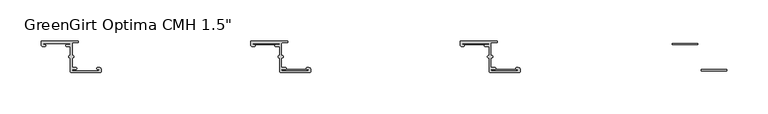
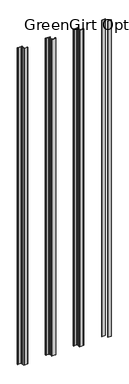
"""IFC4 building model written with IfcOpenShell, lengths in millimetres: fastener geometry."""

from ifc_helpers import new_model, si_unit, frame, origin, origin_with_axes, place, context, project, spatial, polyline, circle_curve, outline, extrude, source, transform, mapped, element, save
from ifc_brep_helpers import plane_surface, cylinder_surface, revolved_surface, advanced_brep


def fastener_c6fd529a(model_context):
    return source(origin(), model_context, "Body", "SolidModel", [
        extrude(outline(polyline([(1863.09, -2.794), (1863.09, -4.5212), (1832.102, -4.5212), (1832.102, -2.794), (1863.09, -2.794)])), origin_with_axes(), (0.0, 0.0, 1.0), 3048.0),
        extrude(outline(polyline([(1898.269, -34.4677766), (1898.269, -36.1949766), (1867.281, -36.1949766), (1867.281, -34.4677766), (1898.269, -34.4677766)])), origin_with_axes(), (0.0, 0.0, 1.0), 3048.0),
        advanced_brep(
        [(1578.102, -2.794, 3048.0), (1609.471, -2.794, 3048.0), (1609.471, -4.5212, 3048.0), (1605.28, -4.5212, 3048.0), (1605.28, -6.5532, 3048.0), (1609.471, -6.5532, 3048.0), (1610.233, -7.3152, 3048.0), (1610.233, -17.7601563, 3048.0), (1609.3845567, -17.7601563, 3048.0), (1609.3845567, -20.4288947, 3048.0), (1610.233, -20.4288947, 3048.0), (1610.233, -37.3379766, 3048.0), (1610.995, -38.0999766, 3048.0), (1646.8513242, -38.1, 3048.0), (1647.571, -37.3379766, 3048.0), (1647.571, -34.4677766, 3048.0), (1645.539, -32.4357766, 3048.0), (1643.253, -32.4357766, 3048.0), (1643.253, -34.4677766, 3048.0), (1644.269, -34.4677766, 3048.0), (1644.269, -36.1949766, 3048.0), (1612.9, -36.1949766, 3048.0), (1612.9, -34.4677766, 3048.0), (1617.091, -34.4677766, 3048.0), (1617.091, -32.4357766, 3048.0), (1612.9, -32.4357766, 3048.0), (1612.138, -31.6737766, 3048.0), (1612.138, -20.4279799, 3048.0), (1612.9869007, -20.4279799, 3048.0), (1612.9869007, -17.7601563, 3048.0), (1612.138, -17.7601563, 3048.0), (1612.138, -2.667, 3048.0), (1612.9, -1.905, 3048.0), (1618.996, -1.905, 3048.0), (1618.996, 0.0, 3048.0), (1575.562, 0.0, 3048.0), (1574.8, -0.762, 3048.0), (1574.8, -4.5212, 3048.0), (1576.832, -6.5532, 3048.0), (1579.118, -6.5532, 3048.0), (1579.118, -4.5212, 3048.0), (1578.102, -4.5212, 3048.0), (1578.102, -2.794, 0.0), (1578.102, -4.5212, 0.0), (1579.118, -4.5212, 0.0), (1579.118, -6.5532, 0.0), (1576.832, -6.5532, 0.0), (1574.8, -4.5212, 0.0), (1574.8, -0.762, 0.0), (1575.562, 0.0, 0.0), (1618.996, 0.0, 0.0), (1618.996, -1.905, 0.0), (1612.9, -1.905, 0.0), (1612.138, -2.667, 0.0), (1612.138, -17.7601563, 0.0), (1612.9869007, -17.7601563, 0.0), (1612.9869007, -20.4279799, 0.0), (1612.138, -20.4279799, 0.0), (1612.138, -31.6737766, 0.0), (1612.9, -32.4357766, 0.0), (1617.091, -32.4357766, 0.0), (1617.091, -34.4677766, 0.0), (1612.9, -34.4677766, 0.0), (1612.9, -36.1949766, 0.0), (1644.269, -36.1949766, 0.0), (1644.269, -34.4677766, 0.0), (1643.253, -34.4677766, 0.0), (1643.253, -32.4357766, 0.0), (1645.539, -32.4357766, 0.0), (1647.571, -34.4677766, 0.0), (1647.571, -37.3379766, 0.0), (1646.809, -38.0999766, 0.0), (1610.9676774, -38.1, 0.0), (1610.233, -37.3379766, 0.0), (1610.233, -20.4288947, 0.0), (1609.3845567, -20.4288947, 0.0), (1609.3845567, -17.7601563, 0.0), (1610.233, -17.7601563, 0.0), (1610.233, -7.3152, 0.0), (1609.471, -6.5532, 0.0), (1605.28, -6.5532, 0.0), (1605.28, -4.5212, 0.0), (1609.471, -4.5212, 0.0), (1609.471, -2.794, 0.0)],
        [
            (0, 1),
            (1, 2, circle_curve(frame((1609.471, -3.6576, 3048.0), z_axis=(0.0, 0.0, -1.0), x_axis=(1.0, 0.0, 0.0)), 0.8636)),
            (2, 3),
            (3, 4, circle_curve(frame((1605.28, -5.5372, 3048.0), z_axis=(0.0, 0.0, 1.0), x_axis=(1.0, 0.0, 0.0)), 1.016)),
            (4, 5),
            (5, 6, circle_curve(frame((1609.471, -7.3152, 3048.0), z_axis=(0.0, 0.0, -1.0), x_axis=(1.0, 0.0, 0.0)), 0.762)),
            (6, 7),
            (7, 8),
            (8, 9, circle_curve(frame((1609.3845567, -19.0945255, 3048.0), z_axis=(0.0, 0.0, 1.0), x_axis=(1.0, 0.0, 0.0)), 1.3343692)),
            (9, 10),
            (10, 11),
            (11, 12, circle_curve(frame((1610.995, -37.3379766, 3048.0), z_axis=(0.0, 0.0, 1.0), x_axis=(1.0, 0.0, 0.0)), 0.762)),
            (12, 13),
            (13, 14, circle_curve(frame((1646.809, -37.3379766, 3048.0), z_axis=(0.0, 0.0, 1.0), x_axis=(1.0, 0.0, 0.0)), 0.762)),
            (14, 15),
            (15, 16, circle_curve(frame((1645.539, -34.4677766, 3048.0), z_axis=(0.0, 0.0, 1.0), x_axis=(1.0, 0.0, 0.0)), 2.032)),
            (16, 17),
            (17, 18, circle_curve(frame((1643.253, -33.4517766, 3048.0), z_axis=(0.0, 0.0, 1.0), x_axis=(1.0, 0.0, 0.0)), 1.016)),
            (18, 19),
            (19, 20, circle_curve(frame((1644.269, -35.3313766, 3048.0), z_axis=(0.0, 0.0, -1.0), x_axis=(1.0, 0.0, 0.0)), 0.8636)),
            (20, 21),
            (21, 22, circle_curve(frame((1612.9, -35.3313766, 3048.0), z_axis=(0.0, 0.0, -1.0), x_axis=(1.0, 0.0, 0.0)), 0.8636)),
            (22, 23),
            (23, 24, circle_curve(frame((1617.091, -33.4517766, 3048.0), z_axis=(0.0, 0.0, 1.0), x_axis=(1.0, 0.0, 0.0)), 1.016)),
            (24, 25),
            (25, 26, circle_curve(frame((1612.9, -31.6737766, 3048.0), z_axis=(0.0, 0.0, -1.0), x_axis=(1.0, 0.0, 0.0)), 0.762)),
            (26, 27),
            (27, 28),
            (28, 29, circle_curve(frame((1612.9869007, -19.0940681, 3048.0), z_axis=(0.0, 0.0, 1.0), x_axis=(1.0, 0.0, 0.0)), 1.3339118)),
            (29, 30),
            (30, 31),
            (31, 32, circle_curve(frame((1612.9, -2.667, 3048.0), z_axis=(0.0, 0.0, -1.0), x_axis=(1.0, 0.0, 0.0)), 0.762)),
            (32, 33),
            (33, 34, circle_curve(frame((1618.996, -0.9525, 3048.0), z_axis=(0.0, 0.0, 1.0), x_axis=(1.0, 0.0, 0.0)), 0.9525)),
            (34, 35),
            (35, 36, circle_curve(frame((1575.562, -0.762, 3048.0), z_axis=(0.0, 0.0, 1.0), x_axis=(1.0, 0.0, 0.0)), 0.762)),
            (36, 37),
            (37, 38, circle_curve(frame((1576.832, -4.5212, 3048.0), z_axis=(0.0, 0.0, 1.0), x_axis=(1.0, 0.0, 0.0)), 2.032)),
            (38, 39),
            (39, 40, circle_curve(frame((1579.118, -5.5372, 3048.0), z_axis=(0.0, 0.0, 1.0), x_axis=(1.0, 0.0, 0.0)), 1.016)),
            (40, 41),
            (41, 0, circle_curve(frame((1578.102, -3.6576, 3048.0), z_axis=(0.0, 0.0, -1.0), x_axis=(1.0, 0.0, 0.0)), 0.8636)),
            (42, 43, circle_curve(frame((1578.102, -3.6576, 0.0), z_axis=(0.0, 0.0, 1.0), x_axis=(1.0, 0.0, 0.0)), 0.8636)),
            (43, 44),
            (44, 45, circle_curve(frame((1579.118, -5.5372, 0.0), z_axis=(0.0, 0.0, -1.0), x_axis=(1.0, 0.0, 0.0)), 1.016)),
            (45, 46),
            (46, 47, circle_curve(frame((1576.832, -4.5212, 0.0), z_axis=(0.0, 0.0, -1.0), x_axis=(1.0, 0.0, 0.0)), 2.032)),
            (47, 48),
            (48, 49, circle_curve(frame((1575.562, -0.762, 0.0), z_axis=(0.0, 0.0, -1.0), x_axis=(1.0, 0.0, 0.0)), 0.762)),
            (49, 50),
            (50, 51, circle_curve(frame((1618.996, -0.9525, 0.0), z_axis=(0.0, 0.0, -1.0), x_axis=(1.0, 0.0, 0.0)), 0.9525)),
            (51, 52),
            (52, 53, circle_curve(frame((1612.9, -2.667, 0.0), z_axis=(0.0, 0.0, 1.0), x_axis=(1.0, 0.0, 0.0)), 0.762)),
            (53, 54),
            (54, 55),
            (55, 56, circle_curve(frame((1612.9869007, -19.0940681, 0.0), z_axis=(0.0, 0.0, -1.0), x_axis=(1.0, 0.0, 0.0)), 1.3339118)),
            (56, 57),
            (57, 58),
            (58, 59, circle_curve(frame((1612.9, -31.6737766, 0.0), z_axis=(0.0, 0.0, 1.0), x_axis=(1.0, 0.0, 0.0)), 0.762)),
            (59, 60),
            (60, 61, circle_curve(frame((1617.091, -33.4517766, 0.0), z_axis=(0.0, 0.0, -1.0), x_axis=(1.0, 0.0, 0.0)), 1.016)),
            (61, 62),
            (62, 63, circle_curve(frame((1612.9, -35.3313766, 0.0), z_axis=(0.0, 0.0, 1.0), x_axis=(1.0, 0.0, 0.0)), 0.8636)),
            (63, 64),
            (64, 65, circle_curve(frame((1644.269, -35.3313766, 0.0), z_axis=(0.0, 0.0, 1.0), x_axis=(1.0, 0.0, 0.0)), 0.8636)),
            (65, 66),
            (66, 67, circle_curve(frame((1643.253, -33.4517766, 0.0), z_axis=(0.0, 0.0, -1.0), x_axis=(1.0, 0.0, 0.0)), 1.016)),
            (67, 68),
            (68, 69, circle_curve(frame((1645.539, -34.4677766, 0.0), z_axis=(0.0, 0.0, -1.0), x_axis=(1.0, 0.0, 0.0)), 2.032)),
            (69, 70),
            (70, 71, circle_curve(frame((1646.809, -37.3379766, 0.0), z_axis=(0.0, 0.0, -1.0), x_axis=(1.0, 0.0, 0.0)), 0.762)),
            (71, 72),
            (72, 73, circle_curve(frame((1610.995, -37.3379766, 0.0), z_axis=(0.0, 0.0, -1.0), x_axis=(1.0, 0.0, 0.0)), 0.762)),
            (73, 74),
            (74, 75),
            (75, 76, circle_curve(frame((1609.3845567, -19.0945255, 0.0), z_axis=(0.0, 0.0, -1.0), x_axis=(1.0, 0.0, 0.0)), 1.3343692)),
            (76, 77),
            (77, 78),
            (78, 79, circle_curve(frame((1609.471, -7.3152, 0.0), z_axis=(0.0, 0.0, 1.0), x_axis=(1.0, 0.0, 0.0)), 0.762)),
            (79, 80),
            (80, 81, circle_curve(frame((1605.28, -5.5372, 0.0), z_axis=(0.0, 0.0, -1.0), x_axis=(1.0, 0.0, 0.0)), 1.016)),
            (81, 82),
            (82, 83, circle_curve(frame((1609.471, -3.6576, 0.0), z_axis=(0.0, 0.0, 1.0), x_axis=(1.0, 0.0, 0.0)), 0.8636)),
            (83, 42),
            (0, 42),
            (83, 1),
            (82, 2),
            (81, 3),
            (80, 4),
            (79, 5),
            (78, 6),
            (77, 7),
            (76, 8),
            (75, 9),
            (74, 10),
            (73, 11),
            (72, 12),
            (71, 13),
            (70, 14),
            (69, 15),
            (68, 16),
            (67, 17),
            (66, 18),
            (65, 19),
            (64, 20),
            (63, 21),
            (62, 22),
            (61, 23),
            (60, 24),
            (59, 25),
            (58, 26),
            (57, 27),
            (56, 28),
            (55, 29),
            (54, 30),
            (53, 31),
            (52, 32),
            (51, 33),
            (50, 34),
            (49, 35),
            (48, 36),
            (47, 37),
            (46, 38),
            (45, 39),
            (44, 40),
            (43, 41),
        ],
        [
            plane_surface(frame((1609.471, -2.794, 3048.0), z_axis=(0.0, 0.0, 1.0), x_axis=(1.0, 0.0, 0.0))),
            plane_surface(frame((1609.471, -2.794, 0.0), z_axis=(0.0, 0.0, -1.0), x_axis=(-1.0, 0.0, 0.0))),
            plane_surface(frame((1578.102, -2.794, 3048.0), z_axis=(0.0, -1.0, 0.0), x_axis=(0.0, 0.0, -1.0))),
            revolved_surface(polyline([(1610.3346, -3.6576, 0.0), (1610.3346, -3.6576, 3048.0)]), (1609.471, -3.6576, 0.0), (0.0, 0.0, -1.0)),
            plane_surface(frame((1609.471, -4.5212, 3048.0), z_axis=(0.0, 1.0, 0.0), x_axis=(0.0, 0.0, -1.0))),
            cylinder_surface(frame((1605.28, -5.5372, 0.0), z_axis=(0.0, 0.0, 1.0), x_axis=(1.0, 0.0, 0.0)), 1.016),
            plane_surface(frame((1605.28, -6.5532, 3048.0), z_axis=(0.0, -1.0, 0.0), x_axis=(0.0, 0.0, -1.0))),
            revolved_surface(polyline([(1610.233, -7.3152, 0.0), (1610.233, -7.3152, 3048.0)]), (1609.471, -7.3152, 0.0), (0.0, 0.0, -1.0)),
            plane_surface(frame((1610.233, -7.3152, 3048.0), z_axis=(-1.0, 0.0, 0.0), x_axis=(0.0, 0.0, -1.0))),
            plane_surface(frame((1610.233, -17.7601563, 3048.0), z_axis=(0.0, 1.0, 0.0), x_axis=(0.0, 0.0, -1.0))),
            cylinder_surface(frame((1609.3845567, -19.0945255, 0.0), z_axis=(0.0, 0.0, 1.0), x_axis=(1.0, 0.0, 0.0)), 1.3343692),
            plane_surface(frame((1609.3845567, -20.4288947, 3048.0), z_axis=(0.0, -1.0, 0.0), x_axis=(0.0, 0.0, -1.0))),
            plane_surface(frame((1610.233, -20.4288947, 3048.0), z_axis=(-1.0, 0.0, 0.0), x_axis=(0.0, 0.0, -1.0))),
            cylinder_surface(frame((1610.995, -37.3379766, 0.0), z_axis=(0.0, 0.0, 1.0), x_axis=(1.0, 0.0, 0.0)), 0.762),
            plane_surface(frame((1610.9676774, -38.1, 3048.0), z_axis=(0.0, -1.0, 0.0), x_axis=(0.0, 0.0, -1.0))),
            cylinder_surface(frame((1646.809, -37.3379766, 0.0), z_axis=(0.0, 0.0, 1.0), x_axis=(1.0, 0.0, 0.0)), 0.762),
            plane_surface(frame((1647.571, -37.3379766, 3048.0), z_axis=(1.0, 1.3794275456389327e-12, 0.0), x_axis=(0.0, 0.0, -1.0))),
            cylinder_surface(frame((1645.539, -34.4677766, 0.0), z_axis=(0.0, 0.0, 1.0), x_axis=(1.0, 0.0, 0.0)), 2.032),
            plane_surface(frame((1645.539, -32.4357766, 3048.0), z_axis=(0.0, 1.0, 0.0), x_axis=(0.0, 0.0, -1.0))),
            cylinder_surface(frame((1643.253, -33.4517766, 0.0), z_axis=(0.0, 0.0, 1.0), x_axis=(1.0, 0.0, 0.0)), 1.016),
            plane_surface(frame((1643.253, -34.4677766, 3048.0), z_axis=(0.0, -1.0, 0.0), x_axis=(0.0, 0.0, -1.0))),
            revolved_surface(polyline([(1645.1326, -35.3313766, 0.0), (1645.1326, -35.3313766, 3048.0)]), (1644.269, -35.3313766, 0.0), (0.0, 0.0, -1.0)),
            plane_surface(frame((1644.269, -36.1949766, 3048.0), z_axis=(0.0, 1.0, 0.0), x_axis=(0.0, 0.0, -1.0))),
            revolved_surface(polyline([(1613.7636, -35.3313766, 0.0), (1613.7636, -35.3313766, 3048.0)]), (1612.9, -35.3313766, 0.0), (0.0, 0.0, -1.0)),
            plane_surface(frame((1612.9, -34.4677766, 3048.0), z_axis=(0.0, -1.0, 0.0), x_axis=(0.0, 0.0, -1.0))),
            cylinder_surface(frame((1617.091, -33.4517766, 0.0), z_axis=(0.0, 0.0, 1.0), x_axis=(1.0, 0.0, 0.0)), 1.016),
            plane_surface(frame((1617.091, -32.4357766, 3048.0), z_axis=(0.0, 1.0, 0.0), x_axis=(0.0, 0.0, -1.0))),
            revolved_surface(polyline([(1613.662, -31.6737766, 0.0), (1613.662, -31.6737766, 3048.0)]), (1612.9, -31.6737766, 0.0), (0.0, 0.0, -1.0)),
            plane_surface(frame((1612.138, -31.6737766, 3048.0), z_axis=(1.0, 0.0, 0.0), x_axis=(0.0, 0.0, -1.0))),
            plane_surface(frame((1612.138, -20.4279799, 3048.0), z_axis=(0.0, -1.0, 0.0), x_axis=(0.0, 0.0, -1.0))),
            cylinder_surface(frame((1612.9869007, -19.0940681, 0.0), z_axis=(0.0, 0.0, 1.0), x_axis=(1.0, 0.0, 0.0)), 1.3339118),
            plane_surface(frame((1612.9869007, -17.7601563, 3048.0), z_axis=(0.0, 1.0, 0.0), x_axis=(0.0, 0.0, -1.0))),
            plane_surface(frame((1612.138, -17.7601563, 3048.0), z_axis=(1.0, 0.0, 0.0), x_axis=(0.0, 0.0, -1.0))),
            revolved_surface(polyline([(1613.662, -2.667, 0.0), (1613.662, -2.667, 3048.0)]), (1612.9, -2.667, 0.0), (0.0, 0.0, -1.0)),
            plane_surface(frame((1612.9, -1.905, 3048.0), z_axis=(0.0, -1.0, 0.0), x_axis=(0.0, 0.0, -1.0))),
            cylinder_surface(frame((1618.996, -0.9525, 0.0), z_axis=(0.0, 0.0, 1.0), x_axis=(1.0, 0.0, 0.0)), 0.9525),
            plane_surface(frame((1618.996, 0.0, 3048.0), z_axis=(0.0, 1.0, 0.0), x_axis=(0.0, 0.0, -1.0))),
            cylinder_surface(frame((1575.562, -0.762, 0.0), z_axis=(0.0, 0.0, 1.0), x_axis=(1.0, 0.0, 0.0)), 0.762),
            plane_surface(frame((1574.8, -0.762, 3048.0), z_axis=(-1.0, 2.681638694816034e-11, 0.0), x_axis=(0.0, 0.0, -1.0))),
            cylinder_surface(frame((1576.832, -4.5212, 0.0), z_axis=(0.0, 0.0, 1.0), x_axis=(1.0, 0.0, 0.0)), 2.032),
            plane_surface(frame((1576.832, -6.5532, 3048.0), z_axis=(0.0, -1.0, 0.0), x_axis=(0.0, 0.0, -1.0))),
            cylinder_surface(frame((1579.118, -5.5372, 0.0), z_axis=(0.0, 0.0, 1.0), x_axis=(1.0, 0.0, 0.0)), 1.016),
            plane_surface(frame((1579.118, -4.5212, 3048.0), z_axis=(0.0, 1.0, 0.0), x_axis=(0.0, 0.0, -1.0))),
            revolved_surface(polyline([(1578.9656, -3.6576, 0.0), (1578.9656, -3.6576, 3048.0)]), (1578.102, -3.6576, 0.0), (0.0, 0.0, -1.0)),
        ],
        [
            (0, [[1, 2, 3, 4, 5, 6, 7, 8, 9, 10, 11, 12, 13, 14, 15, 16, 17, 18, 19, 20, 21, 22, 23, 24, 25, 26, 27, 28, 29, 30, 31, 32, 33, 34, 35, 36, 37, 38, 39, 40, 41, 42]]),
            (1, [[43, 44, 45, 46, 47, 48, 49, 50, 51, 52, 53, 54, 55, 56, 57, 58, 59, 60, 61, 62, 63, 64, 65, 66, 67, 68, 69, 70, 71, 72, 73, 74, 75, 76, 77, 78, 79, 80, 81, 82, 83, 84]]),
            (2, [[-1, 85, -84, 86]]),
            (3, [[-2, -86, -83, 87]]),
            (4, [[-3, -87, -82, 88]]),
            (5, [[-4, -88, -81, 89]]),
            (6, [[-5, -89, -80, 90]]),
            (7, [[-6, -90, -79, 91]]),
            (8, [[-7, -91, -78, 92]]),
            (9, [[-8, -92, -77, 93]]),
            (10, [[-9, -93, -76, 94]]),
            (11, [[-10, -94, -75, 95]]),
            (12, [[-11, -95, -74, 96]]),
            (13, [[-12, -96, -73, 97]]),
            (14, [[-13, -97, -72, 98]]),
            (15, [[-14, -98, -71, 99]]),
            (16, [[-15, -99, -70, 100]]),
            (17, [[-16, -100, -69, 101]]),
            (18, [[-17, -101, -68, 102]]),
            (19, [[-18, -102, -67, 103]]),
            (20, [[-19, -103, -66, 104]]),
            (21, [[-20, -104, -65, 105]]),
            (22, [[-21, -105, -64, 106]]),
            (23, [[-22, -106, -63, 107]]),
            (24, [[-23, -107, -62, 108]]),
            (25, [[-24, -108, -61, 109]]),
            (26, [[-25, -109, -60, 110]]),
            (27, [[-26, -110, -59, 111]]),
            (28, [[-27, -111, -58, 112]]),
            (29, [[-28, -112, -57, 113]]),
            (30, [[-29, -113, -56, 114]]),
            (31, [[-30, -114, -55, 115]]),
            (32, [[-31, -115, -54, 116]]),
            (33, [[-32, -116, -53, 117]]),
            (34, [[-33, -117, -52, 118]]),
            (35, [[-34, -118, -51, 119]]),
            (36, [[-35, -119, -50, 120]]),
            (37, [[-36, -120, -49, 121]]),
            (38, [[-37, -121, -48, 122]]),
            (39, [[-38, -122, -47, 123]]),
            (40, [[-39, -123, -46, 124]]),
            (41, [[-40, -124, -45, 125]]),
            (42, [[-41, -125, -44, 126]]),
            (43, [[-42, -126, -43, -85]]),
        ],
    ),
        extrude(outline(polyline([(1609.09, -2.794), (1609.09, -4.5212), (1578.102, -4.5212), (1578.102, -2.794), (1609.09, -2.794)])), origin_with_axes(), (0.0, 0.0, 1.0), 3048.0),
        extrude(outline(polyline([(1644.269, -34.4677766), (1644.269, -36.1949766), (1613.281, -36.1949766), (1613.281, -34.4677766), (1644.269, -34.4677766)])), origin_with_axes(), (0.0, 0.0, 1.0), 3048.0),
        advanced_brep(
        [(1324.102, -2.794, 3048.0), (1355.471, -2.794, 3048.0), (1355.471, -4.5212, 3048.0), (1351.28, -4.5212, 3048.0), (1351.28, -6.5532, 3048.0), (1355.471, -6.5532, 3048.0), (1356.233, -7.3152, 3048.0), (1356.233, -17.7601563, 3048.0), (1355.3845567, -17.7601563, 3048.0), (1355.3845567, -20.4288947, 3048.0), (1356.233, -20.4288947, 3048.0), (1356.233, -37.3379766, 3048.0), (1356.995, -38.0999766, 3048.0), (1392.8513242, -38.1, 3048.0), (1393.571, -37.3379766, 3048.0), (1393.571, -34.4677766, 3048.0), (1391.539, -32.4357766, 3048.0), (1389.253, -32.4357766, 3048.0), (1389.253, -34.4677766, 3048.0), (1390.269, -34.4677766, 3048.0), (1390.269, -36.1949766, 3048.0), (1358.9, -36.1949766, 3048.0), (1358.9, -34.4677766, 3048.0), (1363.091, -34.4677766, 3048.0), (1363.091, -32.4357766, 3048.0), (1358.9, -32.4357766, 3048.0), (1358.138, -31.6737766, 3048.0), (1358.138, -20.4279799, 3048.0), (1358.9869007, -20.4279799, 3048.0), (1358.9869007, -17.7601563, 3048.0), (1358.138, -17.7601563, 3048.0), (1358.138, -2.667, 3048.0), (1358.9, -1.905, 3048.0), (1364.996, -1.905, 3048.0), (1364.996, 0.0, 3048.0), (1321.562, 0.0, 3048.0), (1320.8, -0.762, 3048.0), (1320.8, -4.5212, 3048.0), (1322.832, -6.5532, 3048.0), (1325.118, -6.5532, 3048.0), (1325.118, -4.5212, 3048.0), (1324.102, -4.5212, 3048.0), (1324.102, -2.794, 0.0), (1324.102, -4.5212, 0.0), (1325.118, -4.5212, 0.0), (1325.118, -6.5532, 0.0), (1322.832, -6.5532, 0.0), (1320.8, -4.5212, 0.0), (1320.8, -0.762, 0.0), (1321.562, 0.0, 0.0), (1364.996, 0.0, 0.0), (1364.996, -1.905, 0.0), (1358.9, -1.905, 0.0), (1358.138, -2.667, 0.0), (1358.138, -17.7601563, 0.0), (1358.9869007, -17.7601563, 0.0), (1358.9869007, -20.4279799, 0.0), (1358.138, -20.4279799, 0.0), (1358.138, -31.6737766, 0.0), (1358.9, -32.4357766, 0.0), (1363.091, -32.4357766, 0.0), (1363.091, -34.4677766, 0.0), (1358.9, -34.4677766, 0.0), (1358.9, -36.1949766, 0.0), (1390.269, -36.1949766, 0.0), (1390.269, -34.4677766, 0.0), (1389.253, -34.4677766, 0.0), (1389.253, -32.4357766, 0.0), (1391.539, -32.4357766, 0.0), (1393.571, -34.4677766, 0.0), (1393.571, -37.3379766, 0.0), (1392.809, -38.0999766, 0.0), (1356.9676774, -38.1, 0.0), (1356.233, -37.3379766, 0.0), (1356.233, -20.4288947, 0.0), (1355.3845567, -20.4288947, 0.0), (1355.3845567, -17.7601563, 0.0), (1356.233, -17.7601563, 0.0), (1356.233, -7.3152, 0.0), (1355.471, -6.5532, 0.0), (1351.28, -6.5532, 0.0), (1351.28, -4.5212, 0.0), (1355.471, -4.5212, 0.0), (1355.471, -2.794, 0.0)],
        [
            (0, 1),
            (1, 2, circle_curve(frame((1355.471, -3.6576, 3048.0), z_axis=(0.0, 0.0, -1.0), x_axis=(1.0, 0.0, 0.0)), 0.8636)),
            (2, 3),
            (3, 4, circle_curve(frame((1351.28, -5.5372, 3048.0), z_axis=(0.0, 0.0, 1.0), x_axis=(1.0, 0.0, 0.0)), 1.016)),
            (4, 5),
            (5, 6, circle_curve(frame((1355.471, -7.3152, 3048.0), z_axis=(0.0, 0.0, -1.0), x_axis=(1.0, 0.0, 0.0)), 0.762)),
            (6, 7),
            (7, 8),
            (8, 9, circle_curve(frame((1355.3845567, -19.0945255, 3048.0), z_axis=(0.0, 0.0, 1.0), x_axis=(1.0, 0.0, 0.0)), 1.3343692)),
            (9, 10),
            (10, 11),
            (11, 12, circle_curve(frame((1356.995, -37.3379766, 3048.0), z_axis=(0.0, 0.0, 1.0), x_axis=(1.0, 0.0, 0.0)), 0.762)),
            (12, 13),
            (13, 14, circle_curve(frame((1392.809, -37.3379766, 3048.0), z_axis=(0.0, 0.0, 1.0), x_axis=(1.0, 0.0, 0.0)), 0.762)),
            (14, 15),
            (15, 16, circle_curve(frame((1391.539, -34.4677766, 3048.0), z_axis=(0.0, 0.0, 1.0), x_axis=(1.0, 0.0, 0.0)), 2.032)),
            (16, 17),
            (17, 18, circle_curve(frame((1389.253, -33.4517766, 3048.0), z_axis=(0.0, 0.0, 1.0), x_axis=(1.0, 0.0, 0.0)), 1.016)),
            (18, 19),
            (19, 20, circle_curve(frame((1390.269, -35.3313766, 3048.0), z_axis=(0.0, 0.0, -1.0), x_axis=(1.0, 0.0, 0.0)), 0.8636)),
            (20, 21),
            (21, 22, circle_curve(frame((1358.9, -35.3313766, 3048.0), z_axis=(0.0, 0.0, -1.0), x_axis=(1.0, 0.0, 0.0)), 0.8636)),
            (22, 23),
            (23, 24, circle_curve(frame((1363.091, -33.4517766, 3048.0), z_axis=(0.0, 0.0, 1.0), x_axis=(1.0, 0.0, 0.0)), 1.016)),
            (24, 25),
            (25, 26, circle_curve(frame((1358.9, -31.6737766, 3048.0), z_axis=(0.0, 0.0, -1.0), x_axis=(1.0, 0.0, 0.0)), 0.762)),
            (26, 27),
            (27, 28),
            (28, 29, circle_curve(frame((1358.9869007, -19.0940681, 3048.0), z_axis=(0.0, 0.0, 1.0), x_axis=(1.0, 0.0, 0.0)), 1.3339118)),
            (29, 30),
            (30, 31),
            (31, 32, circle_curve(frame((1358.9, -2.667, 3048.0), z_axis=(0.0, 0.0, -1.0), x_axis=(1.0, 0.0, 0.0)), 0.762)),
            (32, 33),
            (33, 34, circle_curve(frame((1364.996, -0.9525, 3048.0), z_axis=(0.0, 0.0, 1.0), x_axis=(1.0, 0.0, 0.0)), 0.9525)),
            (34, 35),
            (35, 36, circle_curve(frame((1321.562, -0.762, 3048.0), z_axis=(0.0, 0.0, 1.0), x_axis=(1.0, 0.0, 0.0)), 0.762)),
            (36, 37),
            (37, 38, circle_curve(frame((1322.832, -4.5212, 3048.0), z_axis=(0.0, 0.0, 1.0), x_axis=(1.0, 0.0, 0.0)), 2.032)),
            (38, 39),
            (39, 40, circle_curve(frame((1325.118, -5.5372, 3048.0), z_axis=(0.0, 0.0, 1.0), x_axis=(1.0, 0.0, 0.0)), 1.016)),
            (40, 41),
            (41, 0, circle_curve(frame((1324.102, -3.6576, 3048.0), z_axis=(0.0, 0.0, -1.0), x_axis=(1.0, 0.0, 0.0)), 0.8636)),
            (42, 43, circle_curve(frame((1324.102, -3.6576, 0.0), z_axis=(0.0, 0.0, 1.0), x_axis=(1.0, 0.0, 0.0)), 0.8636)),
            (43, 44),
            (44, 45, circle_curve(frame((1325.118, -5.5372, 0.0), z_axis=(0.0, 0.0, -1.0), x_axis=(1.0, 0.0, 0.0)), 1.016)),
            (45, 46),
            (46, 47, circle_curve(frame((1322.832, -4.5212, 0.0), z_axis=(0.0, 0.0, -1.0), x_axis=(1.0, 0.0, 0.0)), 2.032)),
            (47, 48),
            (48, 49, circle_curve(frame((1321.562, -0.762, 0.0), z_axis=(0.0, 0.0, -1.0), x_axis=(1.0, 0.0, 0.0)), 0.762)),
            (49, 50),
            (50, 51, circle_curve(frame((1364.996, -0.9525, 0.0), z_axis=(0.0, 0.0, -1.0), x_axis=(1.0, 0.0, 0.0)), 0.9525)),
            (51, 52),
            (52, 53, circle_curve(frame((1358.9, -2.667, 0.0), z_axis=(0.0, 0.0, 1.0), x_axis=(1.0, 0.0, 0.0)), 0.762)),
            (53, 54),
            (54, 55),
            (55, 56, circle_curve(frame((1358.9869007, -19.0940681, 0.0), z_axis=(0.0, 0.0, -1.0), x_axis=(1.0, 0.0, 0.0)), 1.3339118)),
            (56, 57),
            (57, 58),
            (58, 59, circle_curve(frame((1358.9, -31.6737766, 0.0), z_axis=(0.0, 0.0, 1.0), x_axis=(1.0, 0.0, 0.0)), 0.762)),
            (59, 60),
            (60, 61, circle_curve(frame((1363.091, -33.4517766, 0.0), z_axis=(0.0, 0.0, -1.0), x_axis=(1.0, 0.0, 0.0)), 1.016)),
            (61, 62),
            (62, 63, circle_curve(frame((1358.9, -35.3313766, 0.0), z_axis=(0.0, 0.0, 1.0), x_axis=(1.0, 0.0, 0.0)), 0.8636)),
            (63, 64),
            (64, 65, circle_curve(frame((1390.269, -35.3313766, 0.0), z_axis=(0.0, 0.0, 1.0), x_axis=(1.0, 0.0, 0.0)), 0.8636)),
            (65, 66),
            (66, 67, circle_curve(frame((1389.253, -33.4517766, 0.0), z_axis=(0.0, 0.0, -1.0), x_axis=(1.0, 0.0, 0.0)), 1.016)),
            (67, 68),
            (68, 69, circle_curve(frame((1391.539, -34.4677766, 0.0), z_axis=(0.0, 0.0, -1.0), x_axis=(1.0, 0.0, 0.0)), 2.032)),
            (69, 70),
            (70, 71, circle_curve(frame((1392.809, -37.3379766, 0.0), z_axis=(0.0, 0.0, -1.0), x_axis=(1.0, 0.0, 0.0)), 0.762)),
            (71, 72),
            (72, 73, circle_curve(frame((1356.995, -37.3379766, 0.0), z_axis=(0.0, 0.0, -1.0), x_axis=(1.0, 0.0, 0.0)), 0.762)),
            (73, 74),
            (74, 75),
            (75, 76, circle_curve(frame((1355.3845567, -19.0945255, 0.0), z_axis=(0.0, 0.0, -1.0), x_axis=(1.0, 0.0, 0.0)), 1.3343692)),
            (76, 77),
            (77, 78),
            (78, 79, circle_curve(frame((1355.471, -7.3152, 0.0), z_axis=(0.0, 0.0, 1.0), x_axis=(1.0, 0.0, 0.0)), 0.762)),
            (79, 80),
            (80, 81, circle_curve(frame((1351.28, -5.5372, 0.0), z_axis=(0.0, 0.0, -1.0), x_axis=(1.0, 0.0, 0.0)), 1.016)),
            (81, 82),
            (82, 83, circle_curve(frame((1355.471, -3.6576, 0.0), z_axis=(0.0, 0.0, 1.0), x_axis=(1.0, 0.0, 0.0)), 0.8636)),
            (83, 42),
            (0, 42),
            (83, 1),
            (82, 2),
            (81, 3),
            (80, 4),
            (79, 5),
            (78, 6),
            (77, 7),
            (76, 8),
            (75, 9),
            (74, 10),
            (73, 11),
            (72, 12),
            (71, 13),
            (70, 14),
            (69, 15),
            (68, 16),
            (67, 17),
            (66, 18),
            (65, 19),
            (64, 20),
            (63, 21),
            (62, 22),
            (61, 23),
            (60, 24),
            (59, 25),
            (58, 26),
            (57, 27),
            (56, 28),
            (55, 29),
            (54, 30),
            (53, 31),
            (52, 32),
            (51, 33),
            (50, 34),
            (49, 35),
            (48, 36),
            (47, 37),
            (46, 38),
            (45, 39),
            (44, 40),
            (43, 41),
        ],
        [
            plane_surface(frame((1355.471, -2.794, 3048.0), z_axis=(0.0, 0.0, 1.0), x_axis=(1.0, 0.0, 0.0))),
            plane_surface(frame((1355.471, -2.794, 0.0), z_axis=(0.0, 0.0, -1.0), x_axis=(-1.0, 0.0, 0.0))),
            plane_surface(frame((1324.102, -2.794, 3048.0), z_axis=(0.0, -1.0, 0.0), x_axis=(0.0, 0.0, -1.0))),
            revolved_surface(polyline([(1356.3346, -3.6576, 0.0), (1356.3346, -3.6576, 3048.0)]), (1355.471, -3.6576, 0.0), (0.0, 0.0, -1.0)),
            plane_surface(frame((1355.471, -4.5212, 3048.0), z_axis=(0.0, 1.0, 0.0), x_axis=(0.0, 0.0, -1.0))),
            cylinder_surface(frame((1351.28, -5.5372, 0.0), z_axis=(0.0, 0.0, 1.0), x_axis=(1.0, 0.0, 0.0)), 1.016),
            plane_surface(frame((1351.28, -6.5532, 3048.0), z_axis=(0.0, -1.0, 0.0), x_axis=(0.0, 0.0, -1.0))),
            revolved_surface(polyline([(1356.233, -7.3152, 0.0), (1356.233, -7.3152, 3048.0)]), (1355.471, -7.3152, 0.0), (0.0, 0.0, -1.0)),
            plane_surface(frame((1356.233, -7.3152, 3048.0), z_axis=(-1.0, 0.0, 0.0), x_axis=(0.0, 0.0, -1.0))),
            plane_surface(frame((1356.233, -17.7601563, 3048.0), z_axis=(0.0, 1.0, 0.0), x_axis=(0.0, 0.0, -1.0))),
            cylinder_surface(frame((1355.3845567, -19.0945255, 0.0), z_axis=(0.0, 0.0, 1.0), x_axis=(1.0, 0.0, 0.0)), 1.3343692),
            plane_surface(frame((1355.3845567, -20.4288947, 3048.0), z_axis=(0.0, -1.0, 0.0), x_axis=(0.0, 0.0, -1.0))),
            plane_surface(frame((1356.233, -20.4288947, 3048.0), z_axis=(-1.0, 0.0, 0.0), x_axis=(0.0, 0.0, -1.0))),
            cylinder_surface(frame((1356.995, -37.3379766, 0.0), z_axis=(0.0, 0.0, 1.0), x_axis=(1.0, 0.0, 0.0)), 0.762),
            plane_surface(frame((1356.9676774, -38.1, 3048.0), z_axis=(0.0, -1.0, 0.0), x_axis=(0.0, 0.0, -1.0))),
            cylinder_surface(frame((1392.809, -37.3379766, 0.0), z_axis=(0.0, 0.0, 1.0), x_axis=(1.0, 0.0, 0.0)), 0.762),
            plane_surface(frame((1393.571, -37.3379766, 3048.0), z_axis=(1.0, 1.3794275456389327e-12, 0.0), x_axis=(0.0, 0.0, -1.0))),
            cylinder_surface(frame((1391.539, -34.4677766, 0.0), z_axis=(0.0, 0.0, 1.0), x_axis=(1.0, 0.0, 0.0)), 2.032),
            plane_surface(frame((1391.539, -32.4357766, 3048.0), z_axis=(0.0, 1.0, 0.0), x_axis=(0.0, 0.0, -1.0))),
            cylinder_surface(frame((1389.253, -33.4517766, 0.0), z_axis=(0.0, 0.0, 1.0), x_axis=(1.0, 0.0, 0.0)), 1.016),
            plane_surface(frame((1389.253, -34.4677766, 3048.0), z_axis=(0.0, -1.0, 0.0), x_axis=(0.0, 0.0, -1.0))),
            revolved_surface(polyline([(1391.1326, -35.3313766, 0.0), (1391.1326, -35.3313766, 3048.0)]), (1390.269, -35.3313766, 0.0), (0.0, 0.0, -1.0)),
            plane_surface(frame((1390.269, -36.1949766, 3048.0), z_axis=(0.0, 1.0, 0.0), x_axis=(0.0, 0.0, -1.0))),
            revolved_surface(polyline([(1359.7636, -35.3313766, 0.0), (1359.7636, -35.3313766, 3048.0)]), (1358.9, -35.3313766, 0.0), (0.0, 0.0, -1.0)),
            plane_surface(frame((1358.9, -34.4677766, 3048.0), z_axis=(0.0, -1.0, 0.0), x_axis=(0.0, 0.0, -1.0))),
            cylinder_surface(frame((1363.091, -33.4517766, 0.0), z_axis=(0.0, 0.0, 1.0), x_axis=(1.0, 0.0, 0.0)), 1.016),
            plane_surface(frame((1363.091, -32.4357766, 3048.0), z_axis=(0.0, 1.0, 0.0), x_axis=(0.0, 0.0, -1.0))),
            revolved_surface(polyline([(1359.662, -31.6737766, 0.0), (1359.662, -31.6737766, 3048.0)]), (1358.9, -31.6737766, 0.0), (0.0, 0.0, -1.0)),
            plane_surface(frame((1358.138, -31.6737766, 3048.0), z_axis=(1.0, 0.0, 0.0), x_axis=(0.0, 0.0, -1.0))),
            plane_surface(frame((1358.138, -20.4279799, 3048.0), z_axis=(0.0, -1.0, 0.0), x_axis=(0.0, 0.0, -1.0))),
            cylinder_surface(frame((1358.9869007, -19.0940681, 0.0), z_axis=(0.0, 0.0, 1.0), x_axis=(1.0, 0.0, 0.0)), 1.3339118),
            plane_surface(frame((1358.9869007, -17.7601563, 3048.0), z_axis=(0.0, 1.0, 0.0), x_axis=(0.0, 0.0, -1.0))),
            plane_surface(frame((1358.138, -17.7601563, 3048.0), z_axis=(1.0, 0.0, 0.0), x_axis=(0.0, 0.0, -1.0))),
            revolved_surface(polyline([(1359.662, -2.667, 0.0), (1359.662, -2.667, 3048.0)]), (1358.9, -2.667, 0.0), (0.0, 0.0, -1.0)),
            plane_surface(frame((1358.9, -1.905, 3048.0), z_axis=(0.0, -1.0, 0.0), x_axis=(0.0, 0.0, -1.0))),
            cylinder_surface(frame((1364.996, -0.9525, 0.0), z_axis=(0.0, 0.0, 1.0), x_axis=(1.0, 0.0, 0.0)), 0.9525),
            plane_surface(frame((1364.996, 0.0, 3048.0), z_axis=(0.0, 1.0, 0.0), x_axis=(0.0, 0.0, -1.0))),
            cylinder_surface(frame((1321.562, -0.762, 0.0), z_axis=(0.0, 0.0, 1.0), x_axis=(1.0, 0.0, 0.0)), 0.762),
            plane_surface(frame((1320.8, -0.762, 3048.0), z_axis=(-1.0, 2.681638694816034e-11, 0.0), x_axis=(0.0, 0.0, -1.0))),
            cylinder_surface(frame((1322.832, -4.5212, 0.0), z_axis=(0.0, 0.0, 1.0), x_axis=(1.0, 0.0, 0.0)), 2.032),
            plane_surface(frame((1322.832, -6.5532, 3048.0), z_axis=(0.0, -1.0, 0.0), x_axis=(0.0, 0.0, -1.0))),
            cylinder_surface(frame((1325.118, -5.5372, 0.0), z_axis=(0.0, 0.0, 1.0), x_axis=(1.0, 0.0, 0.0)), 1.016),
            plane_surface(frame((1325.118, -4.5212, 3048.0), z_axis=(0.0, 1.0, 0.0), x_axis=(0.0, 0.0, -1.0))),
            revolved_surface(polyline([(1324.9656, -3.6576, 0.0), (1324.9656, -3.6576, 3048.0)]), (1324.102, -3.6576, 0.0), (0.0, 0.0, -1.0)),
        ],
        [
            (0, [[1, 2, 3, 4, 5, 6, 7, 8, 9, 10, 11, 12, 13, 14, 15, 16, 17, 18, 19, 20, 21, 22, 23, 24, 25, 26, 27, 28, 29, 30, 31, 32, 33, 34, 35, 36, 37, 38, 39, 40, 41, 42]]),
            (1, [[43, 44, 45, 46, 47, 48, 49, 50, 51, 52, 53, 54, 55, 56, 57, 58, 59, 60, 61, 62, 63, 64, 65, 66, 67, 68, 69, 70, 71, 72, 73, 74, 75, 76, 77, 78, 79, 80, 81, 82, 83, 84]]),
            (2, [[-1, 85, -84, 86]]),
            (3, [[-2, -86, -83, 87]]),
            (4, [[-3, -87, -82, 88]]),
            (5, [[-4, -88, -81, 89]]),
            (6, [[-5, -89, -80, 90]]),
            (7, [[-6, -90, -79, 91]]),
            (8, [[-7, -91, -78, 92]]),
            (9, [[-8, -92, -77, 93]]),
            (10, [[-9, -93, -76, 94]]),
            (11, [[-10, -94, -75, 95]]),
            (12, [[-11, -95, -74, 96]]),
            (13, [[-12, -96, -73, 97]]),
            (14, [[-13, -97, -72, 98]]),
            (15, [[-14, -98, -71, 99]]),
            (16, [[-15, -99, -70, 100]]),
            (17, [[-16, -100, -69, 101]]),
            (18, [[-17, -101, -68, 102]]),
            (19, [[-18, -102, -67, 103]]),
            (20, [[-19, -103, -66, 104]]),
            (21, [[-20, -104, -65, 105]]),
            (22, [[-21, -105, -64, 106]]),
            (23, [[-22, -106, -63, 107]]),
            (24, [[-23, -107, -62, 108]]),
            (25, [[-24, -108, -61, 109]]),
            (26, [[-25, -109, -60, 110]]),
            (27, [[-26, -110, -59, 111]]),
            (28, [[-27, -111, -58, 112]]),
            (29, [[-28, -112, -57, 113]]),
            (30, [[-29, -113, -56, 114]]),
            (31, [[-30, -114, -55, 115]]),
            (32, [[-31, -115, -54, 116]]),
            (33, [[-32, -116, -53, 117]]),
            (34, [[-33, -117, -52, 118]]),
            (35, [[-34, -118, -51, 119]]),
            (36, [[-35, -119, -50, 120]]),
            (37, [[-36, -120, -49, 121]]),
            (38, [[-37, -121, -48, 122]]),
            (39, [[-38, -122, -47, 123]]),
            (40, [[-39, -123, -46, 124]]),
            (41, [[-40, -124, -45, 125]]),
            (42, [[-41, -125, -44, 126]]),
            (43, [[-42, -126, -43, -85]]),
        ],
    ),
        extrude(outline(polyline([(1355.09, -2.794), (1355.09, -4.5212), (1324.102, -4.5212), (1324.102, -2.794), (1355.09, -2.794)])), origin_with_axes(), (0.0, 0.0, 1.0), 3048.0),
        extrude(outline(polyline([(1390.269, -34.4677766), (1390.269, -36.1949766), (1359.281, -36.1949766), (1359.281, -34.4677766), (1390.269, -34.4677766)])), origin_with_axes(), (0.0, 0.0, 1.0), 3048.0),
        advanced_brep(
        [(1070.102, -2.794, 3048.0), (1101.471, -2.794, 3048.0), (1101.471, -4.5212, 3048.0), (1097.28, -4.5212, 3048.0), (1097.28, -6.5532, 3048.0), (1101.471, -6.5532, 3048.0), (1102.233, -7.3152, 3048.0), (1102.233, -17.7601563, 3048.0), (1101.3845567, -17.7601563, 3048.0), (1101.3845567, -20.4288947, 3048.0), (1102.233, -20.4288947, 3048.0), (1102.233, -37.3379766, 3048.0), (1102.995, -38.0999766, 3048.0), (1138.8513242, -38.1, 3048.0), (1139.571, -37.3379766, 3048.0), (1139.571, -34.4677766, 3048.0), (1137.539, -32.4357766, 3048.0), (1135.253, -32.4357766, 3048.0), (1135.253, -34.4677766, 3048.0), (1136.269, -34.4677766, 3048.0), (1136.269, -36.1949766, 3048.0), (1104.9, -36.1949766, 3048.0), (1104.9, -34.4677766, 3048.0), (1109.091, -34.4677766, 3048.0), (1109.091, -32.4357766, 3048.0), (1104.9, -32.4357766, 3048.0), (1104.138, -31.6737766, 3048.0), (1104.138, -20.4279799, 3048.0), (1104.9869007, -20.4279799, 3048.0), (1104.9869007, -17.7601563, 3048.0), (1104.138, -17.7601563, 3048.0), (1104.138, -2.667, 3048.0), (1104.9, -1.905, 3048.0), (1110.996, -1.905, 3048.0), (1110.996, 0.0, 3048.0), (1067.562, 0.0, 3048.0), (1066.8, -0.762, 3048.0), (1066.8, -4.5212, 3048.0), (1068.832, -6.5532, 3048.0), (1071.118, -6.5532, 3048.0), (1071.118, -4.5212, 3048.0), (1070.102, -4.5212, 3048.0), (1070.102, -2.794, 0.0), (1070.102, -4.5212, 0.0), (1071.118, -4.5212, 0.0), (1071.118, -6.5532, 0.0), (1068.832, -6.5532, 0.0), (1066.8, -4.5212, 0.0), (1066.8, -0.762, 0.0), (1067.562, 0.0, 0.0), (1110.996, 0.0, 0.0), (1110.996, -1.905, 0.0), (1104.9, -1.905, 0.0), (1104.138, -2.667, 0.0), (1104.138, -17.7601563, 0.0), (1104.9869007, -17.7601563, 0.0), (1104.9869007, -20.4279799, 0.0), (1104.138, -20.4279799, 0.0), (1104.138, -31.6737766, 0.0), (1104.9, -32.4357766, 0.0), (1109.091, -32.4357766, 0.0), (1109.091, -34.4677766, 0.0), (1104.9, -34.4677766, 0.0), (1104.9, -36.1949766, 0.0), (1136.269, -36.1949766, 0.0), (1136.269, -34.4677766, 0.0), (1135.253, -34.4677766, 0.0), (1135.253, -32.4357766, 0.0), (1137.539, -32.4357766, 0.0), (1139.571, -34.4677766, 0.0), (1139.571, -37.3379766, 0.0), (1138.809, -38.0999766, 0.0), (1102.9676774, -38.1, 0.0), (1102.233, -37.3379766, 0.0), (1102.233, -20.4288947, 0.0), (1101.3845567, -20.4288947, 0.0), (1101.3845567, -17.7601563, 0.0), (1102.233, -17.7601563, 0.0), (1102.233, -7.3152, 0.0), (1101.471, -6.5532, 0.0), (1097.28, -6.5532, 0.0), (1097.28, -4.5212, 0.0), (1101.471, -4.5212, 0.0), (1101.471, -2.794, 0.0)],
        [
            (0, 1),
            (1, 2, circle_curve(frame((1101.471, -3.6576, 3048.0), z_axis=(0.0, 0.0, -1.0), x_axis=(1.0, 0.0, 0.0)), 0.8636)),
            (2, 3),
            (3, 4, circle_curve(frame((1097.28, -5.5372, 3048.0), z_axis=(0.0, 0.0, 1.0), x_axis=(1.0, 0.0, 0.0)), 1.016)),
            (4, 5),
            (5, 6, circle_curve(frame((1101.471, -7.3152, 3048.0), z_axis=(0.0, 0.0, -1.0), x_axis=(1.0, 0.0, 0.0)), 0.762)),
            (6, 7),
            (7, 8),
            (8, 9, circle_curve(frame((1101.3845567, -19.0945255, 3048.0), z_axis=(0.0, 0.0, 1.0), x_axis=(1.0, 0.0, 0.0)), 1.3343692)),
            (9, 10),
            (10, 11),
            (11, 12, circle_curve(frame((1102.995, -37.3379766, 3048.0), z_axis=(0.0, 0.0, 1.0), x_axis=(1.0, 0.0, 0.0)), 0.762)),
            (12, 13),
            (13, 14, circle_curve(frame((1138.809, -37.3379766, 3048.0), z_axis=(0.0, 0.0, 1.0), x_axis=(1.0, 0.0, 0.0)), 0.762)),
            (14, 15),
            (15, 16, circle_curve(frame((1137.539, -34.4677766, 3048.0), z_axis=(0.0, 0.0, 1.0), x_axis=(1.0, 0.0, 0.0)), 2.032)),
            (16, 17),
            (17, 18, circle_curve(frame((1135.253, -33.4517766, 3048.0), z_axis=(0.0, 0.0, 1.0), x_axis=(1.0, 0.0, 0.0)), 1.016)),
            (18, 19),
            (19, 20, circle_curve(frame((1136.269, -35.3313766, 3048.0), z_axis=(0.0, 0.0, -1.0), x_axis=(1.0, 0.0, 0.0)), 0.8636)),
            (20, 21),
            (21, 22, circle_curve(frame((1104.9, -35.3313766, 3048.0), z_axis=(0.0, 0.0, -1.0), x_axis=(1.0, 0.0, 0.0)), 0.8636)),
            (22, 23),
            (23, 24, circle_curve(frame((1109.091, -33.4517766, 3048.0), z_axis=(0.0, 0.0, 1.0), x_axis=(1.0, 0.0, 0.0)), 1.016)),
            (24, 25),
            (25, 26, circle_curve(frame((1104.9, -31.6737766, 3048.0), z_axis=(0.0, 0.0, -1.0), x_axis=(1.0, 0.0, 0.0)), 0.762)),
            (26, 27),
            (27, 28),
            (28, 29, circle_curve(frame((1104.9869007, -19.0940681, 3048.0), z_axis=(0.0, 0.0, 1.0), x_axis=(1.0, 0.0, 0.0)), 1.3339118)),
            (29, 30),
            (30, 31),
            (31, 32, circle_curve(frame((1104.9, -2.667, 3048.0), z_axis=(0.0, 0.0, -1.0), x_axis=(1.0, 0.0, 0.0)), 0.762)),
            (32, 33),
            (33, 34, circle_curve(frame((1110.996, -0.9525, 3048.0), z_axis=(0.0, 0.0, 1.0), x_axis=(1.0, 0.0, 0.0)), 0.9525)),
            (34, 35),
            (35, 36, circle_curve(frame((1067.562, -0.762, 3048.0), z_axis=(0.0, 0.0, 1.0), x_axis=(1.0, 0.0, 0.0)), 0.762)),
            (36, 37),
            (37, 38, circle_curve(frame((1068.832, -4.5212, 3048.0), z_axis=(0.0, 0.0, 1.0), x_axis=(1.0, 0.0, 0.0)), 2.032)),
            (38, 39),
            (39, 40, circle_curve(frame((1071.118, -5.5372, 3048.0), z_axis=(0.0, 0.0, 1.0), x_axis=(1.0, 0.0, 0.0)), 1.016)),
            (40, 41),
            (41, 0, circle_curve(frame((1070.102, -3.6576, 3048.0), z_axis=(0.0, 0.0, -1.0), x_axis=(1.0, 0.0, 0.0)), 0.8636)),
            (42, 43, circle_curve(frame((1070.102, -3.6576, 0.0), z_axis=(0.0, 0.0, 1.0), x_axis=(1.0, 0.0, 0.0)), 0.8636)),
            (43, 44),
            (44, 45, circle_curve(frame((1071.118, -5.5372, 0.0), z_axis=(0.0, 0.0, -1.0), x_axis=(1.0, 0.0, 0.0)), 1.016)),
            (45, 46),
            (46, 47, circle_curve(frame((1068.832, -4.5212, 0.0), z_axis=(0.0, 0.0, -1.0), x_axis=(1.0, 0.0, 0.0)), 2.032)),
            (47, 48),
            (48, 49, circle_curve(frame((1067.562, -0.762, 0.0), z_axis=(0.0, 0.0, -1.0), x_axis=(1.0, 0.0, 0.0)), 0.762)),
            (49, 50),
            (50, 51, circle_curve(frame((1110.996, -0.9525, 0.0), z_axis=(0.0, 0.0, -1.0), x_axis=(1.0, 0.0, 0.0)), 0.9525)),
            (51, 52),
            (52, 53, circle_curve(frame((1104.9, -2.667, 0.0), z_axis=(0.0, 0.0, 1.0), x_axis=(1.0, 0.0, 0.0)), 0.762)),
            (53, 54),
            (54, 55),
            (55, 56, circle_curve(frame((1104.9869007, -19.0940681, 0.0), z_axis=(0.0, 0.0, -1.0), x_axis=(1.0, 0.0, 0.0)), 1.3339118)),
            (56, 57),
            (57, 58),
            (58, 59, circle_curve(frame((1104.9, -31.6737766, 0.0), z_axis=(0.0, 0.0, 1.0), x_axis=(1.0, 0.0, 0.0)), 0.762)),
            (59, 60),
            (60, 61, circle_curve(frame((1109.091, -33.4517766, 0.0), z_axis=(0.0, 0.0, -1.0), x_axis=(1.0, 0.0, 0.0)), 1.016)),
            (61, 62),
            (62, 63, circle_curve(frame((1104.9, -35.3313766, 0.0), z_axis=(0.0, 0.0, 1.0), x_axis=(1.0, 0.0, 0.0)), 0.8636)),
            (63, 64),
            (64, 65, circle_curve(frame((1136.269, -35.3313766, 0.0), z_axis=(0.0, 0.0, 1.0), x_axis=(1.0, 0.0, 0.0)), 0.8636)),
            (65, 66),
            (66, 67, circle_curve(frame((1135.253, -33.4517766, 0.0), z_axis=(0.0, 0.0, -1.0), x_axis=(1.0, 0.0, 0.0)), 1.016)),
            (67, 68),
            (68, 69, circle_curve(frame((1137.539, -34.4677766, 0.0), z_axis=(0.0, 0.0, -1.0), x_axis=(1.0, 0.0, 0.0)), 2.032)),
            (69, 70),
            (70, 71, circle_curve(frame((1138.809, -37.3379766, 0.0), z_axis=(0.0, 0.0, -1.0), x_axis=(1.0, 0.0, 0.0)), 0.762)),
            (71, 72),
            (72, 73, circle_curve(frame((1102.995, -37.3379766, 0.0), z_axis=(0.0, 0.0, -1.0), x_axis=(1.0, 0.0, 0.0)), 0.762)),
            (73, 74),
            (74, 75),
            (75, 76, circle_curve(frame((1101.3845567, -19.0945255, 0.0), z_axis=(0.0, 0.0, -1.0), x_axis=(1.0, 0.0, 0.0)), 1.3343692)),
            (76, 77),
            (77, 78),
            (78, 79, circle_curve(frame((1101.471, -7.3152, 0.0), z_axis=(0.0, 0.0, 1.0), x_axis=(1.0, 0.0, 0.0)), 0.762)),
            (79, 80),
            (80, 81, circle_curve(frame((1097.28, -5.5372, 0.0), z_axis=(0.0, 0.0, -1.0), x_axis=(1.0, 0.0, 0.0)), 1.016)),
            (81, 82),
            (82, 83, circle_curve(frame((1101.471, -3.6576, 0.0), z_axis=(0.0, 0.0, 1.0), x_axis=(1.0, 0.0, 0.0)), 0.8636)),
            (83, 42),
            (0, 42),
            (83, 1),
            (82, 2),
            (81, 3),
            (80, 4),
            (79, 5),
            (78, 6),
            (77, 7),
            (76, 8),
            (75, 9),
            (74, 10),
            (73, 11),
            (72, 12),
            (71, 13),
            (70, 14),
            (69, 15),
            (68, 16),
            (67, 17),
            (66, 18),
            (65, 19),
            (64, 20),
            (63, 21),
            (62, 22),
            (61, 23),
            (60, 24),
            (59, 25),
            (58, 26),
            (57, 27),
            (56, 28),
            (55, 29),
            (54, 30),
            (53, 31),
            (52, 32),
            (51, 33),
            (50, 34),
            (49, 35),
            (48, 36),
            (47, 37),
            (46, 38),
            (45, 39),
            (44, 40),
            (43, 41),
        ],
        [
            plane_surface(frame((1101.471, -2.794, 3048.0), z_axis=(0.0, 0.0, 1.0), x_axis=(1.0, 0.0, 0.0))),
            plane_surface(frame((1101.471, -2.794, 0.0), z_axis=(0.0, 0.0, -1.0), x_axis=(-1.0, 0.0, 0.0))),
            plane_surface(frame((1070.102, -2.794, 3048.0), z_axis=(0.0, -1.0, 0.0), x_axis=(0.0, 0.0, -1.0))),
            revolved_surface(polyline([(1102.3346, -3.6576, 0.0), (1102.3346, -3.6576, 3048.0)]), (1101.471, -3.6576, 0.0), (0.0, 0.0, -1.0)),
            plane_surface(frame((1101.471, -4.5212, 3048.0), z_axis=(0.0, 1.0, 0.0), x_axis=(0.0, 0.0, -1.0))),
            cylinder_surface(frame((1097.28, -5.5372, 0.0), z_axis=(0.0, 0.0, 1.0), x_axis=(1.0, 0.0, 0.0)), 1.016),
            plane_surface(frame((1097.28, -6.5532, 3048.0), z_axis=(0.0, -1.0, 0.0), x_axis=(0.0, 0.0, -1.0))),
            revolved_surface(polyline([(1102.233, -7.3152, 0.0), (1102.233, -7.3152, 3048.0)]), (1101.471, -7.3152, 0.0), (0.0, 0.0, -1.0)),
            plane_surface(frame((1102.233, -7.3152, 3048.0), z_axis=(-1.0, 0.0, 0.0), x_axis=(0.0, 0.0, -1.0))),
            plane_surface(frame((1102.233, -17.7601563, 3048.0), z_axis=(0.0, 1.0, 0.0), x_axis=(0.0, 0.0, -1.0))),
            cylinder_surface(frame((1101.3845567, -19.0945255, 0.0), z_axis=(0.0, 0.0, 1.0), x_axis=(1.0, 0.0, 0.0)), 1.3343692),
            plane_surface(frame((1101.3845567, -20.4288947, 3048.0), z_axis=(0.0, -1.0, 0.0), x_axis=(0.0, 0.0, -1.0))),
            plane_surface(frame((1102.233, -20.4288947, 3048.0), z_axis=(-1.0, 0.0, 0.0), x_axis=(0.0, 0.0, -1.0))),
            cylinder_surface(frame((1102.995, -37.3379766, 0.0), z_axis=(0.0, 0.0, 1.0), x_axis=(1.0, 0.0, 0.0)), 0.762),
            plane_surface(frame((1102.9676774, -38.1, 3048.0), z_axis=(0.0, -1.0, 0.0), x_axis=(0.0, 0.0, -1.0))),
            cylinder_surface(frame((1138.809, -37.3379766, 0.0), z_axis=(0.0, 0.0, 1.0), x_axis=(1.0, 0.0, 0.0)), 0.762),
            plane_surface(frame((1139.571, -37.3379766, 3048.0), z_axis=(1.0, 1.3794275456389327e-12, 0.0), x_axis=(0.0, 0.0, -1.0))),
            cylinder_surface(frame((1137.539, -34.4677766, 0.0), z_axis=(0.0, 0.0, 1.0), x_axis=(1.0, 0.0, 0.0)), 2.032),
            plane_surface(frame((1137.539, -32.4357766, 3048.0), z_axis=(0.0, 1.0, 0.0), x_axis=(0.0, 0.0, -1.0))),
            cylinder_surface(frame((1135.253, -33.4517766, 0.0), z_axis=(0.0, 0.0, 1.0), x_axis=(1.0, 0.0, 0.0)), 1.016),
            plane_surface(frame((1135.253, -34.4677766, 3048.0), z_axis=(0.0, -1.0, 0.0), x_axis=(0.0, 0.0, -1.0))),
            revolved_surface(polyline([(1137.1326, -35.3313766, 0.0), (1137.1326, -35.3313766, 3048.0)]), (1136.269, -35.3313766, 0.0), (0.0, 0.0, -1.0)),
            plane_surface(frame((1136.269, -36.1949766, 3048.0), z_axis=(0.0, 1.0, 0.0), x_axis=(0.0, 0.0, -1.0))),
            revolved_surface(polyline([(1105.7636, -35.3313766, 0.0), (1105.7636, -35.3313766, 3048.0)]), (1104.9, -35.3313766, 0.0), (0.0, 0.0, -1.0)),
            plane_surface(frame((1104.9, -34.4677766, 3048.0), z_axis=(0.0, -1.0, 0.0), x_axis=(0.0, 0.0, -1.0))),
            cylinder_surface(frame((1109.091, -33.4517766, 0.0), z_axis=(0.0, 0.0, 1.0), x_axis=(1.0, 0.0, 0.0)), 1.016),
            plane_surface(frame((1109.091, -32.4357766, 3048.0), z_axis=(0.0, 1.0, 0.0), x_axis=(0.0, 0.0, -1.0))),
            revolved_surface(polyline([(1105.662, -31.6737766, 0.0), (1105.662, -31.6737766, 3048.0)]), (1104.9, -31.6737766, 0.0), (0.0, 0.0, -1.0)),
            plane_surface(frame((1104.138, -31.6737766, 3048.0), z_axis=(1.0, 0.0, 0.0), x_axis=(0.0, 0.0, -1.0))),
            plane_surface(frame((1104.138, -20.4279799, 3048.0), z_axis=(0.0, -1.0, 0.0), x_axis=(0.0, 0.0, -1.0))),
            cylinder_surface(frame((1104.9869007, -19.0940681, 0.0), z_axis=(0.0, 0.0, 1.0), x_axis=(1.0, 0.0, 0.0)), 1.3339118),
            plane_surface(frame((1104.9869007, -17.7601563, 3048.0), z_axis=(0.0, 1.0, 0.0), x_axis=(0.0, 0.0, -1.0))),
            plane_surface(frame((1104.138, -17.7601563, 3048.0), z_axis=(1.0, 0.0, 0.0), x_axis=(0.0, 0.0, -1.0))),
            revolved_surface(polyline([(1105.662, -2.667, 0.0), (1105.662, -2.667, 3048.0)]), (1104.9, -2.667, 0.0), (0.0, 0.0, -1.0)),
            plane_surface(frame((1104.9, -1.905, 3048.0), z_axis=(0.0, -1.0, 0.0), x_axis=(0.0, 0.0, -1.0))),
            cylinder_surface(frame((1110.996, -0.9525, 0.0), z_axis=(0.0, 0.0, 1.0), x_axis=(1.0, 0.0, 0.0)), 0.9525),
            plane_surface(frame((1110.996, 0.0, 3048.0), z_axis=(0.0, 1.0, 0.0), x_axis=(0.0, 0.0, -1.0))),
            cylinder_surface(frame((1067.562, -0.762, 0.0), z_axis=(0.0, 0.0, 1.0), x_axis=(1.0, 0.0, 0.0)), 0.762),
            plane_surface(frame((1066.8, -0.762, 3048.0), z_axis=(-1.0, 2.681638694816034e-11, 0.0), x_axis=(0.0, 0.0, -1.0))),
            cylinder_surface(frame((1068.832, -4.5212, 0.0), z_axis=(0.0, 0.0, 1.0), x_axis=(1.0, 0.0, 0.0)), 2.032),
            plane_surface(frame((1068.832, -6.5532, 3048.0), z_axis=(0.0, -1.0, 0.0), x_axis=(0.0, 0.0, -1.0))),
            cylinder_surface(frame((1071.118, -5.5372, 0.0), z_axis=(0.0, 0.0, 1.0), x_axis=(1.0, 0.0, 0.0)), 1.016),
            plane_surface(frame((1071.118, -4.5212, 3048.0), z_axis=(0.0, 1.0, 0.0), x_axis=(0.0, 0.0, -1.0))),
            revolved_surface(polyline([(1070.9656, -3.6576, 0.0), (1070.9656, -3.6576, 3048.0)]), (1070.102, -3.6576, 0.0), (0.0, 0.0, -1.0)),
        ],
        [
            (0, [[1, 2, 3, 4, 5, 6, 7, 8, 9, 10, 11, 12, 13, 14, 15, 16, 17, 18, 19, 20, 21, 22, 23, 24, 25, 26, 27, 28, 29, 30, 31, 32, 33, 34, 35, 36, 37, 38, 39, 40, 41, 42]]),
            (1, [[43, 44, 45, 46, 47, 48, 49, 50, 51, 52, 53, 54, 55, 56, 57, 58, 59, 60, 61, 62, 63, 64, 65, 66, 67, 68, 69, 70, 71, 72, 73, 74, 75, 76, 77, 78, 79, 80, 81, 82, 83, 84]]),
            (2, [[-1, 85, -84, 86]]),
            (3, [[-2, -86, -83, 87]]),
            (4, [[-3, -87, -82, 88]]),
            (5, [[-4, -88, -81, 89]]),
            (6, [[-5, -89, -80, 90]]),
            (7, [[-6, -90, -79, 91]]),
            (8, [[-7, -91, -78, 92]]),
            (9, [[-8, -92, -77, 93]]),
            (10, [[-9, -93, -76, 94]]),
            (11, [[-10, -94, -75, 95]]),
            (12, [[-11, -95, -74, 96]]),
            (13, [[-12, -96, -73, 97]]),
            (14, [[-13, -97, -72, 98]]),
            (15, [[-14, -98, -71, 99]]),
            (16, [[-15, -99, -70, 100]]),
            (17, [[-16, -100, -69, 101]]),
            (18, [[-17, -101, -68, 102]]),
            (19, [[-18, -102, -67, 103]]),
            (20, [[-19, -103, -66, 104]]),
            (21, [[-20, -104, -65, 105]]),
            (22, [[-21, -105, -64, 106]]),
            (23, [[-22, -106, -63, 107]]),
            (24, [[-23, -107, -62, 108]]),
            (25, [[-24, -108, -61, 109]]),
            (26, [[-25, -109, -60, 110]]),
            (27, [[-26, -110, -59, 111]]),
            (28, [[-27, -111, -58, 112]]),
            (29, [[-28, -112, -57, 113]]),
            (30, [[-29, -113, -56, 114]]),
            (31, [[-30, -114, -55, 115]]),
            (32, [[-31, -115, -54, 116]]),
            (33, [[-32, -116, -53, 117]]),
            (34, [[-33, -117, -52, 118]]),
            (35, [[-34, -118, -51, 119]]),
            (36, [[-35, -119, -50, 120]]),
            (37, [[-36, -120, -49, 121]]),
            (38, [[-37, -121, -48, 122]]),
            (39, [[-38, -122, -47, 123]]),
            (40, [[-39, -123, -46, 124]]),
            (41, [[-40, -124, -45, 125]]),
            (42, [[-41, -125, -44, 126]]),
            (43, [[-42, -126, -43, -85]]),
        ],
    ),
    ])


if __name__ == "__main__":
    model = new_model("IFC4")
    model_context = context("Model", 3, world=origin())
    ifc_project = project(units=[si_unit("LENGTHUNIT", "METRE", prefix="MILLI")], contexts=[model_context])
    site = spatial("IfcSite", under=ifc_project)
    building = spatial("IfcBuilding", under=site)
    placement = place(None, origin())
    fastener_shape = fastener_c6fd529a(model_context)
    element("IfcFastener", 1, ObjectType="Structural-Supporting-Components_Advanced-Architectural-Products_GreenGirt-Optima-CMH-System : GreenGirt Optima CMH 1.5\"", at=placement, inside=building, context=model_context, shape_type="MappedRepresentation", body=[
        mapped(fastener_shape, transform((0.0, 0.0, 0.0), x_axis=(1.0, 0.0, 0.0), y_axis=(0.0, 1.0, 0.0), z_axis=(0.0, 0.0, 1.0))),
    ])
    save(model, "model.ifc")
